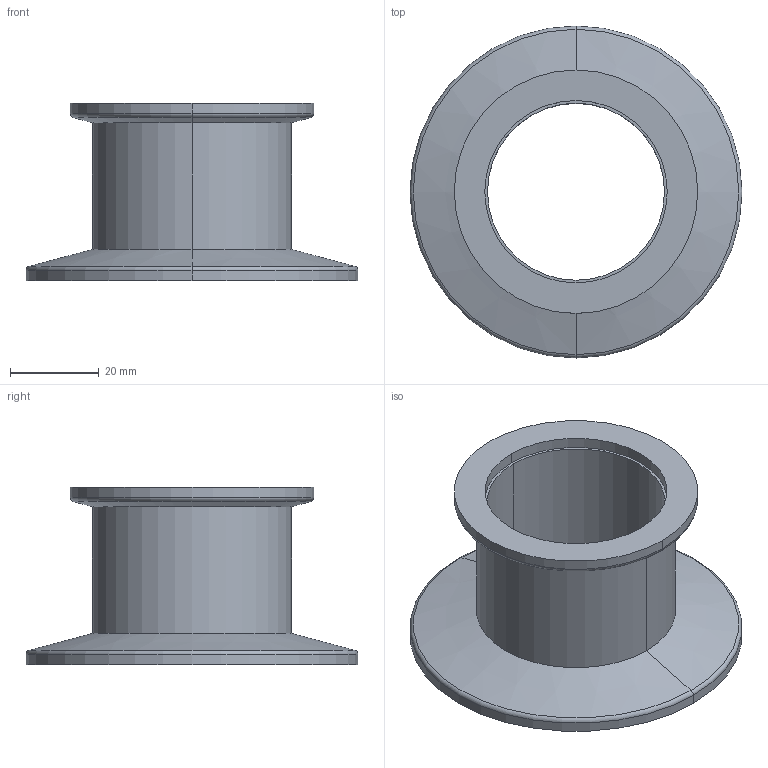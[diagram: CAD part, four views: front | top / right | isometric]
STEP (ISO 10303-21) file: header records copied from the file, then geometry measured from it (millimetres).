
FILE_DESCRIPTION (( 'STEP AP214' ), '1' );
FILE_NAME ('W3RS50-40.STEP', '2019-12-04T08:42:19', ( '' ), ( '' ), 'SwSTEP 2.0', 'SolidWorks 2018', '' );
FILE_SCHEMA (( 'AUTOMOTIVE_DESIGN' ));
Length unit declared in the file: millimetre
Products named in the file (1): W3RS50-40
Bounding box: 75 x 75 x 40 mm (x, y, z)
Volume: 27461.6 mm3; surface area: 18333.8 mm2
Topology: 1 solids, 1 shells, 24 faces, 48 edges, 28 vertices
Faces by surface type: cylinder 12, torus 4, cone 4, plane 4
Entity records: 666 total; most frequent: DIRECTION 130, CARTESIAN_POINT 101, ORIENTED_EDGE 96, AXIS2_PLACEMENT_3D 57, EDGE_CURVE 48, CIRCLE 32, VERTEX_POINT 28, EDGE_LOOP 28
